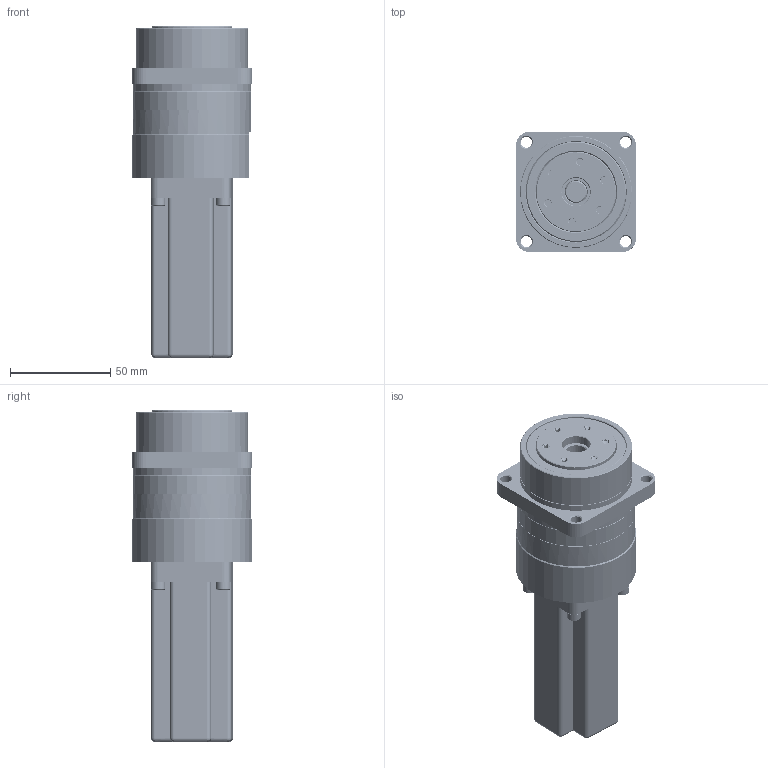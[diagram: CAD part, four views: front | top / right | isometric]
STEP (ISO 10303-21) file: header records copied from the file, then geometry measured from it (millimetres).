
FILE_DESCRIPTION(/* description */ (''),/* implementation_level */ '2;1');
FILE_NAME(/* name */ 'PG14-40伺服电机安装方案.stp',/* time_stamp */ '2022-08-04T17:34:03+08:00',/* author */ (''),/* organization */ (''),/* preprocessor_version */ 'ST-DEVELOPER v16.7',/* originating_system */ 'SIEMENS PLM Software NX 12.0',/* authorisation */ '');
FILE_SCHEMA (('AUTOMOTIVE_DESIGN { 1 0 10303 214 3 1 1 1 }'));
Products named in the file (1): 1
Bounding box: 60 x 60 x 165.5 mm (x, y, z)
Volume: 264402.6 mm3; surface area: 110110.7 mm2
Topology: 63 solids, 65 shells, 1366 faces, 3300 edges, 2145 vertices
Faces by surface type: plane 605, cylinder 394, bspline 184, cone 141, sphere 31, torus 11
Full cylindrical faces by diameter (mm): 2.5 x24, 3.5 x28, 4.2 x6, 4.5 x10, 5.5 x20, 6.5 x12, 7 x7, 7.22 x4, 8 x2, 11 x4, 14 x1, 15.5 x1, 17 x3, 18.8 x1, 20 x1, 22 x2, 23 x1, 24 x2, 24.5 x1, 25.07 x1, 26 x1, 26.67 x2, 27 x3, 27.5 x1, 28 x1, 29 x2, 29.5 x1, 30 x5, 31.5 x1, 32.396 x2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
Entity records: 469257 total; most frequent: CARTESIAN_POINT 440636, ORIENTED_EDGE 5572, DIRECTION 5211, EDGE_CURVE 2786, AXIS2_PLACEMENT_3D 2057, VERTEX_POINT 2013, EDGE_LOOP 1883, ADVANCED_FACE 1340
